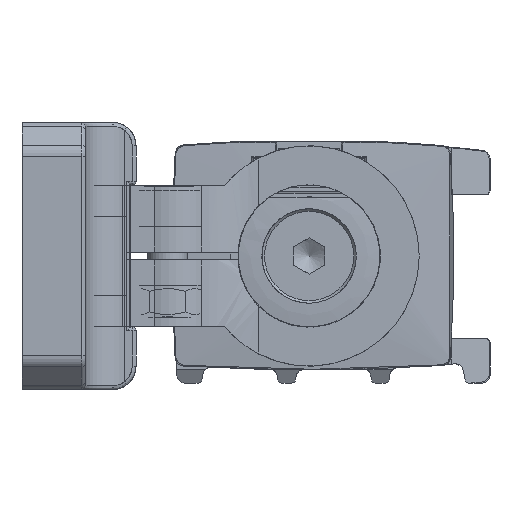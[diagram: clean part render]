
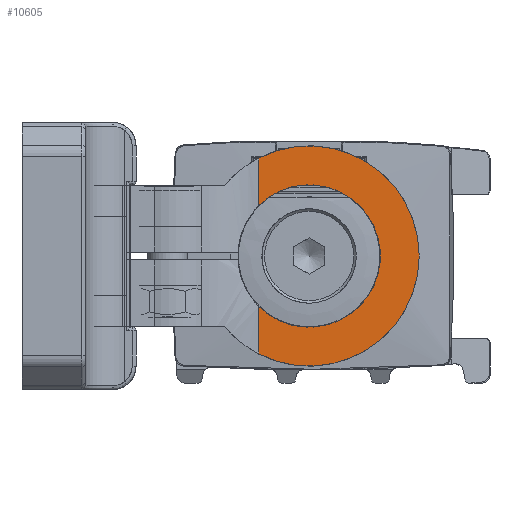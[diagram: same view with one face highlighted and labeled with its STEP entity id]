
A CAD part, left-side view. The second image highlights one B-rep face of the part: STEP entity #10605.
In plain terms, the highlighted planar face has unit normal (-1, 0, 0) as drawn and (0, 0, 1) by its records, which use the part's own axes.
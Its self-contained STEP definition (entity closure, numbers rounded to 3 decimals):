
#9845=CARTESIAN_POINT('',(-6.381,-12.461,6.));
#9846=VERTEX_POINT('',#9845);
#9863=CARTESIAN_POINT('',(-6.381,-6.418,6.));
#9864=VERTEX_POINT('',#9863);
#9865=CARTESIAN_POINT('',(-6.381,-6.418,6.));
#9866=DIRECTION('',(0.0,-1.0,0.0));
#9867=VECTOR('',#9866,6.044);
#9868=LINE('',#9865,#9867);
#9869=EDGE_CURVE('',#9864,#9846,#9868,.T.);
#10414=CARTESIAN_POINT('',(-6.381,6.418,6.));
#10415=VERTEX_POINT('',#10414);
#10429=CARTESIAN_POINT('',(-6.381,12.461,6.));
#10430=VERTEX_POINT('',#10429);
#10431=CARTESIAN_POINT('',(-6.381,6.418,6.));
#10432=DIRECTION('',(0.0,1.0,0.0));
#10433=VECTOR('',#10432,6.044);
#10434=LINE('',#10431,#10433);
#10435=EDGE_CURVE('',#10415,#10430,#10434,.T.);
#10481=CARTESIAN_POINT('',(0.0,0.0,6.));
#10482=DIRECTION('',(0.0,0.0,-1.0));
#10483=DIRECTION('',(-1.0,0.0,0.0));
#10484=AXIS2_PLACEMENT_3D('',#10481,#10482,#10483);
#10485=CIRCLE('',#10484,9.05);
#10486=EDGE_CURVE('',#10415,#9864,#10485,.T.);
#10588=CARTESIAN_POINT('',(0.,4.91,6.));
#10589=DIRECTION('',(0.0,0.0,1.0));
#10590=DIRECTION('',(1.0,0.0,0.0));
#10591=AXIS2_PLACEMENT_3D('',#10588,#10589,#10590);
#10592=PLANE('',#10591);
#10593=ORIENTED_EDGE('',*,*,#10486,.T.);
#10594=ORIENTED_EDGE('',*,*,#9869,.T.);
#10595=CARTESIAN_POINT('',(0.0,0.0,6.));
#10596=DIRECTION('',(0.0,0.0,-1.0));
#10597=DIRECTION('',(1.0,0.0,0.0));
#10598=AXIS2_PLACEMENT_3D('',#10595,#10596,#10597);
#10599=CIRCLE('',#10598,14.);
#10600=EDGE_CURVE('',#10430,#9846,#10599,.T.);
#10601=ORIENTED_EDGE('',*,*,#10600,.F.);
#10602=ORIENTED_EDGE('',*,*,#10435,.F.);
#10603=EDGE_LOOP('',(#10593,#10594,#10601,#10602));
#10604=FACE_OUTER_BOUND('',#10603,.T.);
#10605=ADVANCED_FACE('',(#10604),#10592,.T.);
